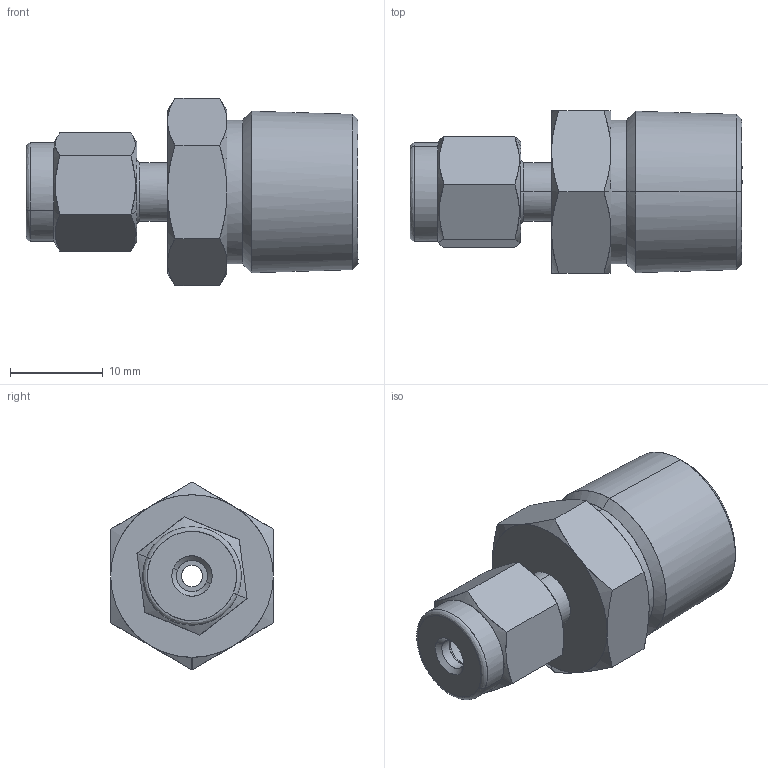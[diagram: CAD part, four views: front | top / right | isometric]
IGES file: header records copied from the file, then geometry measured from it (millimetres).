
Start section: Comment
Global section: file name: SMC2-6N.igs; native system:  By UGS Corp.; preprocessor: XPlus GENERIC/IGES 3.0; author: Author; organization: Title; date: 20100113.152200; units: millimetre
Bounding box: 35.74 x 17.5 x 20.21 mm (x, y, z)
Surface area: 2921.9 mm2 (no closed solid volume)
Topology: 0 solids, 0 shells, 80 faces, 336 edges, 336 vertices
Faces by surface type: bspline 80
